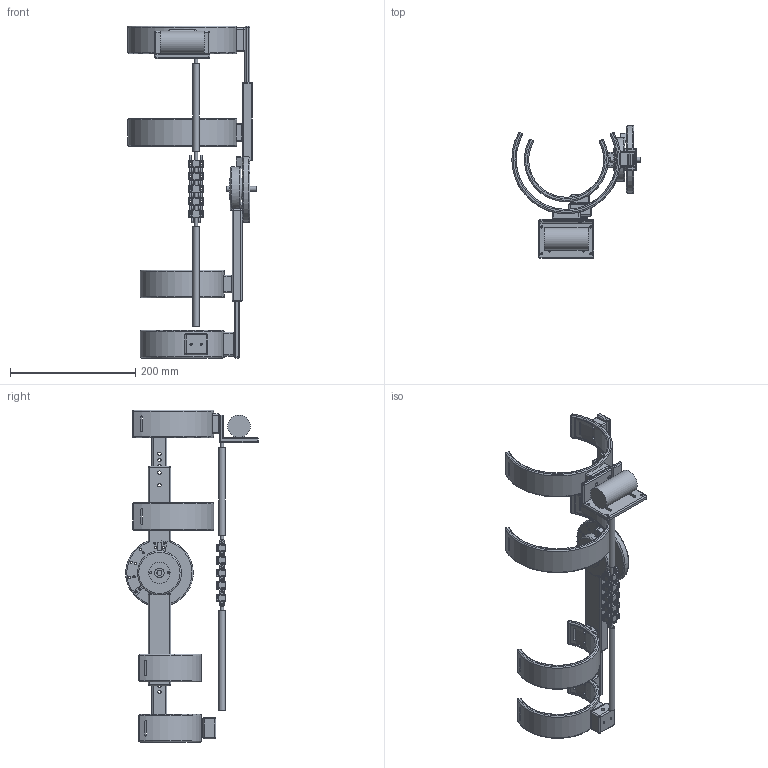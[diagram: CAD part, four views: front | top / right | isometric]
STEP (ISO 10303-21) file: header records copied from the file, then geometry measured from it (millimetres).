
FILE_DESCRIPTION(('Open CASCADE Model'),'2;1');
FILE_NAME('Open CASCADE Shape Model','2026-11-04T08:45:18',('Author'),( 'Open CASCADE'),'Open CASCADE STEP processor 7.8','Open CASCADE 7.8' ,'Unknown');
FILE_SCHEMA(('AUTOMOTIVE_DESIGN { 1 0 10303 214 1 1 1 1 }'));
Length unit declared in the file: millimetre
Products named in the file (32): Orthosis_V01_LAYOUT_0deg; A01; A02; A03; A04; A05; A06; A07; A09_extension; A09_flexion; A10_inner; A10_outer; A11; A13_1; A14_1; A13_2; A14_2; A13_3; A14_3; A13_4; A14_4; A13_5; A14_5; A15; A16; R01_a; R01_b; R02; R03; R04; R05; R06
Assembly tree (31 placements, depth 2):
  Orthosis_V01_LAYOUT_0deg
    A01
    A02
    A03
    A04
    A05
    A06
    A07
    A09_extension
    A09_flexion
    A10_inner
    A10_outer
    A11
    A13_1
    A14_1
    A13_2
    A14_2
    A13_3
    A14_3
    A13_4
    A14_4
    A13_5
    A14_5
    A15
    A16
    R01_a
    R01_b
    R02
    R03
    R04
    R05
    R06
Bounding box: 204.99 x 211.95 x 530 mm (x, y, z)
Volume: 918593 mm3; surface area: 323854.8 mm2
Topology: 31 solids, 31 shells, 1733 faces, 4099 edges, 2110 vertices
Faces by surface type: cylinder 762, plane 656, sphere 294, torus 21
Full cylindrical faces by diameter (mm): 3 x1, 3.4 x70, 5 x1, 5.5 x40, 5.6 x3, 8 x3, 8.2 x3, 10 x2, 12 x2, 15 x2, 16 x1, 22 x2, 22.025 x2, 34 x2, 36 x1, 70 x1
Entity records: 106316 total; most frequent: CARTESIAN_POINT 26013, DIRECTION 15784, LINE 8187, VECTOR 8187, ORIENTED_EDGE 7638, PCURVE 7638, DEFINITIONAL_REPRESENTATION 7638, EDGE_CURVE 3819
